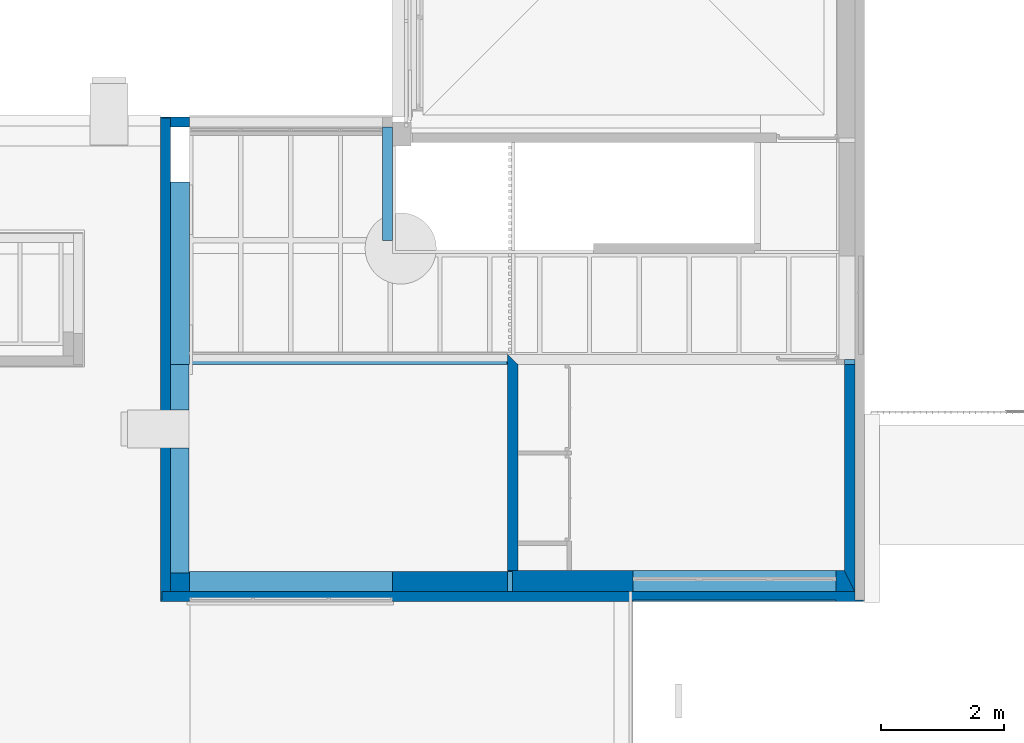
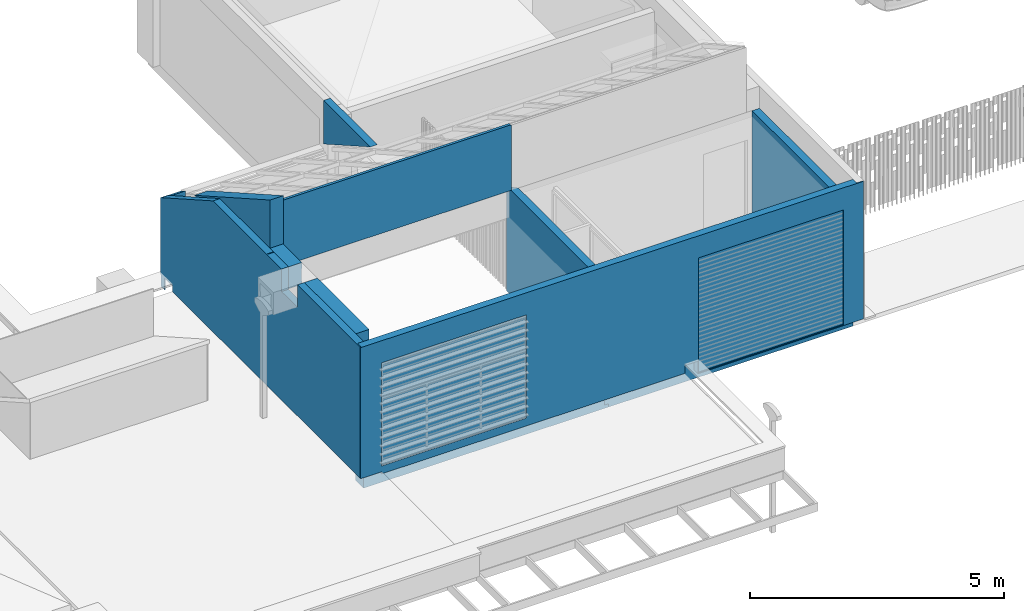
# One storey, part 24 of 51: 11 walls.
"""IFC2X3 building model written with IfcOpenShell, lengths in metres."""

from ifc_helpers import new_model, entity, si_unit, converted_unit, derived_unit, direction, frame, origin, place, context, subcontext, project, spatial, faceted_brep, material, layer, layer_set, type_object, element, save


model = new_model("IFC2X3")

# Units and contexts
model_context = context("Model", 3, precision=1e-05, world=origin(), true_north=direction((6.123031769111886e-17, 1.0)))
body_context = subcontext(model_context, "Body", "Model", "MODEL_VIEW")
ifc_project = project(units=[si_unit("LENGTHUNIT", "METRE"), si_unit("AREAUNIT", "SQUARE_METRE"), si_unit("VOLUMEUNIT", "CUBIC_METRE"), converted_unit("PLANEANGLEUNIT", "DEGREE", entity("IfcRatioMeasure", 0.017453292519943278), si_unit("PLANEANGLEUNIT", "RADIAN"), dimensions=[0, 0, 0, 0, 0, 0, 0]), si_unit("MASSUNIT", "GRAM", prefix="KILO"), derived_unit("MASSDENSITYUNIT", [(si_unit("MASSUNIT", "GRAM", prefix="KILO"), 1), (si_unit("LENGTHUNIT", "METRE"), -3)]), derived_unit("MOMENTOFINERTIAUNIT", [(si_unit("LENGTHUNIT", "METRE"), 4)]), si_unit("TIMEUNIT", "SECOND"), si_unit("FREQUENCYUNIT", "HERTZ"), si_unit("THERMODYNAMICTEMPERATUREUNIT", "DEGREE_CELSIUS"), derived_unit("THERMALTRANSMITTANCEUNIT", [(si_unit("MASSUNIT", "GRAM", prefix="KILO"), 1), (si_unit("THERMODYNAMICTEMPERATUREUNIT", "KELVIN"), -1), (si_unit("TIMEUNIT", "SECOND"), -3)]), derived_unit("THERMALCONDUCTANCEUNIT", [(si_unit("MASSUNIT", "GRAM", prefix="KILO"), 1), (si_unit("LENGTHUNIT", "METRE"), 1), (si_unit("THERMODYNAMICTEMPERATUREUNIT", "KELVIN"), -1), (si_unit("TIMEUNIT", "SECOND"), -3)]), derived_unit("VOLUMETRICFLOWRATEUNIT", [(si_unit("LENGTHUNIT", "METRE"), 3), (si_unit("TIMEUNIT", "SECOND"), -1)]), derived_unit("MASSFLOWRATEUNIT", [(si_unit("MASSUNIT", "GRAM", prefix="KILO"), 1), (si_unit("TIMEUNIT", "SECOND"), -1)]), derived_unit("ROTATIONALFREQUENCYUNIT", [(si_unit("TIMEUNIT", "SECOND"), -1)]), si_unit("ELECTRICCURRENTUNIT", "AMPERE"), si_unit("ELECTRICVOLTAGEUNIT", "VOLT"), si_unit("POWERUNIT", "WATT"), si_unit("FORCEUNIT", "NEWTON", prefix="KILO"), si_unit("ILLUMINANCEUNIT", "LUX"), si_unit("LUMINOUSFLUXUNIT", "LUMEN"), si_unit("LUMINOUSINTENSITYUNIT", "CANDELA"), derived_unit("USERDEFINED", [(si_unit("MASSUNIT", "GRAM", prefix="KILO"), -1), (si_unit("LENGTHUNIT", "METRE"), -2), (si_unit("TIMEUNIT", "SECOND"), 3), (si_unit("LUMINOUSFLUXUNIT", "LUMEN"), 1)]), derived_unit("USERDEFINED", [(si_unit("MASSUNIT", "GRAM", prefix="KILO"), 1), (si_unit("LENGTHUNIT", "METRE"), 3), (si_unit("TIMEUNIT", "SECOND"), -3), (si_unit("ELECTRICCURRENTUNIT", "AMPERE"), -2)]), derived_unit("USERDEFINED", [(si_unit("LENGTHUNIT", "METRE"), 2), (si_unit("TIMEUNIT", "SECOND"), -2)]), derived_unit("SOUNDPOWERUNIT", [(si_unit("MASSUNIT", "GRAM", prefix="KILO"), 1), (si_unit("LENGTHUNIT", "METRE"), 2), (si_unit("TIMEUNIT", "SECOND"), -3)]), derived_unit("SOUNDPRESSUREUNIT", [(si_unit("MASSUNIT", "GRAM", prefix="KILO"), 1), (si_unit("LENGTHUNIT", "METRE"), -1), (si_unit("TIMEUNIT", "SECOND"), -2)]), derived_unit("LINEARVELOCITYUNIT", [(si_unit("LENGTHUNIT", "METRE"), 1), (si_unit("TIMEUNIT", "SECOND"), -1)]), si_unit("PRESSUREUNIT", "PASCAL"), derived_unit("USERDEFINED", [(si_unit("LENGTHUNIT", "METRE"), -2), (si_unit("MASSUNIT", "GRAM", prefix="KILO"), 1), (si_unit("TIMEUNIT", "SECOND"), -2)]), derived_unit("LINEARFORCEUNIT", [(si_unit("MASSUNIT", "GRAM", prefix="KILO"), 1), (si_unit("LENGTHUNIT", "METRE"), 1), (si_unit("TIMEUNIT", "SECOND"), -2), (si_unit("LENGTHUNIT", "METRE"), -1)]), derived_unit("PLANARFORCEUNIT", [(si_unit("MASSUNIT", "GRAM", prefix="KILO"), 1), (si_unit("LENGTHUNIT", "METRE"), 1), (si_unit("TIMEUNIT", "SECOND"), -2), (si_unit("LENGTHUNIT", "METRE"), -2)]), derived_unit("SPECIFICHEATCAPACITYUNIT", [(si_unit("LENGTHUNIT", "METRE"), 2), (si_unit("TIMEUNIT", "SECOND"), -2), (si_unit("THERMODYNAMICTEMPERATUREUNIT", "KELVIN"), -1)]), derived_unit("VAPORPERMEABILITYUNIT", [(si_unit("TIMEUNIT", "SECOND"), 1), (si_unit("LENGTHUNIT", "METRE"), -1)]), derived_unit("DYNAMICVISCOSITYUNIT", [(si_unit("MASSUNIT", "GRAM", prefix="KILO"), 1), (si_unit("LENGTHUNIT", "METRE"), -1), (si_unit("TIMEUNIT", "SECOND"), -1)]), derived_unit("THERMALEXPANSIONCOEFFICIENTUNIT", [(si_unit("THERMODYNAMICTEMPERATUREUNIT", "KELVIN"), -1)])], contexts=[model_context])

# Site, building, storey
site_placement = place(None, origin())
site = spatial("IfcSite", under=ifc_project, at=site_placement, Name="Default", CompositionType="ELEMENT")
building_placement = place(site_placement, origin())
building = spatial("IfcBuilding", under=site, at=building_placement, CompositionType="ELEMENT")
storey_placement = place(building_placement, frame((0.0, 0.0, 3.06)))
storey = spatial("IfcBuildingStorey", under=building, at=storey_placement, Name="ÉTAGE", CompositionType="ELEMENT", Elevation=3.06)

# Walls
wall_type_1 = type_object("IfcWallType", Name="MurExt-007", PredefinedType="NOTDEFINED")
wall_1_placement = place(storey_placement, frame((116.91075228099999, 15.307209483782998, 0.0)))
element("IfcWall", 1, at=wall_1_placement, inside=storey, type_object=wall_type_1, Name="MurExt-007:MurExt-007", ObjectType="MurExt-007:MurExt-007", context=body_context, shape_type="Brep", body=[
    faceted_brep([(0.4699999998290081, 0.14000000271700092, 0.2799999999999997), (0.4699999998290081, 0.14000000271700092, 2.1304379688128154), (0.15999999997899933, 0.14000000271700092, 2.1304379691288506), (0.019999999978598, 0.14000000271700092, 2.1304379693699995), (0.019999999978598, 0.14000000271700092, 0.2799999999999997), (0.4699999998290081, 0.1600000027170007, 0.2799999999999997), (0.4699999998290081, 0.1600000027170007, 2.1190719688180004), (0.019999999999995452, 0.1600000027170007, 0.2799999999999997), (0.019999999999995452, 0.1600000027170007, 2.1190719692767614), (0.019999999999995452, 0.16000000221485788, 2.1190719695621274), (0.02000000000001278, 0.16000000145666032, 0.2799999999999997), (0.019999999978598, 0.1400000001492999, 0.2799999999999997)], [[[0, 1, 2, 3, 4]], [[1, 0, 5, 6]], [[6, 5, 7, 8]], [[9, 3, 2, 1, 6]], [[3, 8, 10, 4]], [[11, 7, 5, 0]]]),
    faceted_brep([(0.4699999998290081, 2.7170002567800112e-09, 0.2799999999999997), (0.4699999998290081, 2.7170002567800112e-09, 2.2099999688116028), (0.15999999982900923, 2.7170002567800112e-09, 2.209999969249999), (0.15999999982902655, 2.7170002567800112e-09, 0.2799999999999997), (0.4699999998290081, 0.14000000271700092, 0.2799999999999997), (0.4699999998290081, 0.14000000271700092, 2.1304379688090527), (0.15999999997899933, 0.14000000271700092, 0.2799999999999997), (0.15999999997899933, 0.14000000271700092, 2.1304379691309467), (0.15999999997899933, 0.14000000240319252, 2.1304379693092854), (0.15999999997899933, 0.13999999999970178, 0.2799999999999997), (0.15999999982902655, 0.0, 0.2799999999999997)], [[[0, 1, 2, 3]], [[1, 0, 4, 5]], [[5, 4, 6, 7]], [[8, 2, 1, 5]], [[2, 7, 9, 3]], [[10, 6, 4, 0]]]),
])
wall_type_2 = type_object("IfcWallType", Name="MurExt-006", PredefinedType="NOTDEFINED")
wall_2_placement = place(storey_placement, frame((116.91075228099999, 7.5872094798, 0.0), z_axis=(0.0, 0.0, 1.0), x_axis=(0.0, 1.0, 0.0)))
element("IfcWall", 2, at=wall_2_placement, inside=storey, type_object=wall_type_2, Name="MurExt-006 294160:MurExt-006 294160", ObjectType="MurExt-006 294160:MurExt-006 294160", context=body_context, shape_type="Brep", body=[
    faceted_brep([(2.495000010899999, -0.019999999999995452, 3.29), (2.495000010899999, 0.0, 3.29), (0.019999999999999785, 0.0, 3.29), (0.019999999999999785, -0.019999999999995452, 3.29), (7.720000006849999, -0.019999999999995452, 0.0), (7.720000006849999, 0.0, 0.0), (7.860000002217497, 0.0, 0.0), (7.860000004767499, -0.019999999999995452, 0.0), (3.115000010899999, -0.019999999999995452, 2.75), (2.495000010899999, -0.019999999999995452, 2.75), (0.019999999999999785, -0.019999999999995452, 0.14000000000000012), (7.420000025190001, -0.019999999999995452, 0.13999999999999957), (7.4200000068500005, -0.019999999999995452, 0.2799999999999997), (7.720000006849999, -0.019999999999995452, 0.2799999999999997), (7.860000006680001, -0.019999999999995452, 0.2799999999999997), (7.880000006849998, -0.019999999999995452, 0.2799999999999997), (7.880000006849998, -0.019999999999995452, 2.1190719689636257), (7.8600000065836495, -0.019999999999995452, 2.130437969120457), (5.819595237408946, -0.019999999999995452, 3.29), (3.115000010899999, -0.019999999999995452, 3.29), (7.880000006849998, 0.0, 0.2799999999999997), (7.880000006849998, 0.0, 2.119071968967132), (2.495000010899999, 0.0, 2.75), (3.115000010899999, 0.0, 2.75), (3.115000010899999, 0.0, 3.29), (5.819595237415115, 0.0, 3.290000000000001), (7.860000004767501, 0.0, 0.28000000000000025), (7.720000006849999, 0.0, 0.2799999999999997), (7.4200000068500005, 0.0, 0.2799999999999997), (7.420000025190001, 0.0, 0.14000000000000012), (0.019999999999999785, 0.0, 0.14000000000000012), (7.860000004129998, 0.0, 0.2799999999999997), (7.860000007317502, -0.019999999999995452, 0.28000000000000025)], [[[0, 1, 2, 3]], [[4, 5, 6, 7]], [[8, 9, 0, 3, 10, 11, 12, 13, 4, 7, 14, 15, 16, 17, 18, 19]], [[15, 20, 21, 16]], [[22, 23, 24, 25, 21, 20, 26, 6, 5, 27, 28, 29, 30, 2, 1]], [[22, 9, 8, 23]], [[23, 8, 19, 24]], [[9, 22, 1, 0]], [[30, 10, 3, 2]], [[13, 27, 5, 4]], [[27, 13, 12, 28]], [[28, 12, 11, 29]], [[10, 30, 29, 11]], [[14, 31, 20, 15]], [[31, 32, 7, 6]], [[25, 18, 17, 16, 21]], [[24, 19, 18, 25]]]),
    faceted_brep([(2.495000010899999, -0.15999999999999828, 3.29), (2.495000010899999, -0.019999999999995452, 3.29), (0.15999998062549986, -0.019999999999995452, 3.29), (0.15999998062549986, -0.15999999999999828, 3.29), (3.115000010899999, -0.15999999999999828, 2.75), (2.495000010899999, -0.15999999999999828, 2.75), (0.16000005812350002, -0.15999999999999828, 0.14000000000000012), (7.420000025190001, -0.15999999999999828, 0.13999999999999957), (7.4200000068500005, -0.15999999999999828, 0.2799999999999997), (7.860000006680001, -0.15999999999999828, 0.2799999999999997), (7.860000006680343, -0.15999999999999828, 2.1304379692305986), (5.8195952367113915, -0.15999999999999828, 3.29), (3.71000001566, -0.15999999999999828, 3.29), (3.71000001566, -0.15999999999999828, 2.9899999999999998), (3.690000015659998, -0.15999999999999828, 2.9899999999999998), (3.690000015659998, -0.15999999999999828, 3.29), (3.115000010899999, -0.15999999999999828, 3.29), (2.495000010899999, -0.019999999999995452, 2.75), (3.115000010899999, -0.019999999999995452, 2.75), (3.115000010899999, -0.019999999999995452, 3.29), (3.690000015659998, -0.019999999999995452, 3.29), (3.690000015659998, -0.019999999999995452, 2.9899999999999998), (3.71000001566, -0.019999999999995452, 2.9899999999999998), (3.71000001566, -0.019999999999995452, 3.29), (5.819595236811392, -0.019999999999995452, 3.2899999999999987), (7.860000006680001, -0.019999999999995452, 2.1304379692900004), (7.860000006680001, -0.019999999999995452, 0.2799999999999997), (7.4200000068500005, -0.019999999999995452, 0.2799999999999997), (7.420000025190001, -0.019999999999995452, 0.14000000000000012), (0.16000005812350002, -0.019999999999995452, 0.1400000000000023), (0.16000000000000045, -0.019999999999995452, 0.14000000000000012)], [[[0, 1, 2, 3]], [[4, 5, 0, 3, 6, 7, 8, 9, 10, 11, 12, 13, 14, 15, 16]], [[17, 18, 19, 20, 21, 22, 23, 24, 25, 26, 27, 28, 29, 2, 1]], [[17, 5, 4, 18]], [[18, 4, 16, 19]], [[5, 17, 1, 0]], [[21, 14, 13, 22]], [[22, 13, 12, 23]], [[14, 21, 20, 15]], [[29, 6, 3, 2]], [[10, 25, 24, 11]], [[25, 10, 9, 26]], [[26, 9, 8, 27]], [[27, 8, 7, 28]], [[6, 30, 28, 7]], [[19, 16, 15, 20]], [[23, 12, 11, 24]]]),
])
wall_type_3 = type_object("IfcWallType", Name="MurExt-005", PredefinedType="NOTDEFINED")
wall_3_placement = place(storey_placement, frame((116.91075228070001, 7.5872094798, -0.020000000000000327)))
element("IfcWall", 3, at=wall_3_placement, inside=storey, type_object=wall_type_3, Name="MurExt-005 295181:MurExt-005 295181", ObjectType="MurExt-005 295181:MurExt-005 295181", context=body_context, shape_type="Brep", body=[
    faceted_brep([(0.0, 0.019999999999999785, 3.309999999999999), (0.0, 0.0, 3.309999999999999), (11.429999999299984, 0.0, 3.309999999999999), (11.429999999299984, 0.019999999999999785, 3.309999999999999), (7.669999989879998, 0.0, 0.0), (7.669999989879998, 0.019999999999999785, 0.0), (11.429999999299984, 0.019999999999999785, 0.0), (11.429999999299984, 0.0, 0.0), (0.0, 0.019999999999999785, 0.16000000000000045), (7.669999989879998, 0.019999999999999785, 0.30000000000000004), (7.369999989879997, 0.019999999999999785, 0.30000000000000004), (7.369999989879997, 0.019999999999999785, 0.1099999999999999), (0.4800000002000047, 0.019999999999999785, 0.1099999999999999), (0.4800000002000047, 0.019999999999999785, 0.16000000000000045), (10.979999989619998, 0.019999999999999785, 0.020000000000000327), (10.979999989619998, 0.019999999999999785, 2.7800000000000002), (7.679999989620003, 0.019999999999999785, 2.7800000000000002), (7.679999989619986, 0.019999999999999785, 0.020000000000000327), (3.769999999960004, 0.019999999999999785, 0.30000000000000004), (3.769999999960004, 0.019999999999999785, 2.7800000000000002), (0.469999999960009, 0.019999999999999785, 2.7800000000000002), (0.469999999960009, 0.019999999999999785, 0.30000000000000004), (0.0, 0.0, 0.16000000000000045), (0.4800000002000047, 0.0, 0.16000000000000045), (0.4800000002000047, 0.0, 0.1099999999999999), (7.369999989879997, 0.0, 0.1099999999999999), (7.369999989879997, 0.0, 0.30000000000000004), (7.669999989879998, 0.0, 0.30000000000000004), (10.979999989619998, 0.0, 2.7800000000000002), (10.979999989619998, 0.0, 0.020000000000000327), (7.679999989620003, 0.0, 0.020000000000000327), (7.679999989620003, 0.0, 2.7800000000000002), (3.769999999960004, 0.0, 2.7800000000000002), (3.769999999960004, 0.0, 0.30000000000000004), (0.469999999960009, 0.0, 0.30000000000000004), (0.469999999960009, 0.0, 2.7800000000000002)], [[[0, 1, 2, 3]], [[4, 5, 6, 7]], [[8, 0, 3, 6, 5, 9, 10, 11, 12, 13], [14, 15, 16, 17], [18, 19, 20, 21]], [[1, 0, 8, 22]], [[1, 22, 23, 24, 25, 26, 27, 4, 7, 2], [28, 29, 30, 31], [32, 33, 34, 35]], [[10, 26, 25, 11]], [[26, 10, 9, 27]], [[27, 9, 5, 4]], [[13, 23, 22, 8]], [[23, 13, 12, 24]], [[11, 25, 24, 12]], [[3, 2, 7, 6]], [[14, 29, 28, 15]], [[18, 33, 32, 19]], [[19, 32, 35, 20]], [[15, 28, 31, 16]], [[20, 35, 34, 21]], [[16, 31, 30, 17]], [[29, 14, 17, 30]], [[33, 18, 21, 34]]]),
    faceted_brep([(0.02000000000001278, 0.16000000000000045, 3.309999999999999), (0.02000000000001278, 0.019999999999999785, 3.309999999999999), (11.289999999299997, 0.019999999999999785, 3.309999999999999), (11.289999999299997, 0.16000000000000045, 3.309999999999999), (7.669999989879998, 0.019999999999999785, 0.0), (7.669999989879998, 0.16000000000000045, 0.0), (11.289999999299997, 0.16000000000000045, 0.0), (11.289999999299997, 0.019999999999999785, 0.0), (7.369999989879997, 0.16000000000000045, 0.30000000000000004), (7.369999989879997, 0.16000000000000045, 0.1099999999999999), (0.4800000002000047, 0.16000000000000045, 0.1099999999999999), (0.4800000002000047, 0.16000000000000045, 0.16000000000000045), (0.02000000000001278, 0.16000000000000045, 0.16000000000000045), (7.669999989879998, 0.16000000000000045, 0.30000000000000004), (7.369999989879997, 0.019999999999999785, 0.1099999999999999), (7.369999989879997, 0.019999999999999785, 0.30000000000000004), (7.669999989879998, 0.019999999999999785, 0.30000000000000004), (0.02000000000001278, 0.019999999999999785, 0.16000000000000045), (0.4800000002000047, 0.019999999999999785, 0.16000000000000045), (0.4800000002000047, 0.019999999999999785, 0.1099999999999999), (0.4800000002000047, 0.1600000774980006, 0.16000000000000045), (0.4800000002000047, 0.1600000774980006, 0.1099999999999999), (7.369999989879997, 0.1600000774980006, 0.1099999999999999)], [[[0, 1, 2, 3]], [[4, 5, 6, 7]], [[8, 9, 10, 11, 12, 0, 3, 6, 5, 13]], [[14, 15, 16, 4, 7, 2, 1, 17, 18, 19]], [[14, 9, 8, 15]], [[15, 8, 13, 16]], [[16, 13, 5, 4]], [[12, 17, 1, 0]], [[17, 12, 20, 18]], [[18, 11, 21, 19]], [[22, 14, 19, 10]], [[3, 2, 7, 6]]]),
])
wall_type_4 = type_object("IfcWallType", Name="MurExt-020", PredefinedType="NOTDEFINED")
wall_4_placement = place(storey_placement, frame((117.07075228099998, 11.437209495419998, 2.759999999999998), z_axis=(0.0, 0.0, 1.0), x_axis=(0.0, 1.0, 0.0)))
element("IfcWall", 4, at=wall_4_placement, inside=storey, type_object=wall_type_4, Name="MurExt-020 805178:MurExt-020 805178", ObjectType="MurExt-020 805178:MurExt-020 805178", context=body_context, shape_type="Brep", body=[
    faceted_brep([(0.0, -0.31000000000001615, 0.0), (0.0, 0.0, 0.0), (2.9725865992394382, 0.0, 0.0), (2.972586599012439, -0.31000000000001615, 0.0), (0.0, 0.0, 1.6893209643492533), (0.0, -0.31000000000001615, 1.6893209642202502)], [[[0, 1, 2, 3]], [[2, 1, 4]], [[1, 0, 5, 4]], [[0, 3, 5]], [[3, 2, 4, 5]]]),
])
wall_type_5 = type_object("IfcWallType", Name="MurExt-020", PredefinedType="NOTDEFINED")
wall_5_placement = place(storey_placement, frame((117.07075228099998, 7.7472094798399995, 2.759999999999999), z_axis=(0.0, 0.0, 1.0), x_axis=(0.0, 1.0, 0.0)))
element("IfcWall", 5, at=wall_5_placement, inside=storey, type_object=wall_type_5, Name="MurExt-020 805722:MurExt-020 805722", ObjectType="MurExt-020 805722:MurExt-020 805722", context=body_context, shape_type="Brep", body=[
    faceted_brep([(3.6900000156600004, -0.3000000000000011, 0.5299999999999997), (3.6900000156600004, 0.0, 0.5299999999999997), (2.955000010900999, 0.0, 0.5299999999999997), (2.955000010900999, -0.3000000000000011, 0.5299999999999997), (3.6900000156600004, 0.0, 0.0), (2.955000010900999, 0.0, 0.0), (3.6900000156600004, -0.3000000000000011, 0.3800000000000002), (3.6900000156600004, -0.2899999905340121, 0.3800000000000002), (3.6900000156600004, -0.2899999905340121, 0.08000000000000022), (3.6900000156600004, -0.3000000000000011, 0.08000000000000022), (3.6900000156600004, -0.3000000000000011, 0.0), (2.955000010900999, -0.2899999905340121, 0.08000000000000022), (3.689999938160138, -0.2899999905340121, 0.3800000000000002), (2.955000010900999, -0.2899999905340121, 0.3800000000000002), (2.955000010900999, -0.3000000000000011, 0.3800000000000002), (3.689999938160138, -0.2899999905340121, 0.08000000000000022), (2.955000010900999, -0.3000000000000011, 0.08000000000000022), (2.955000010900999, -0.3000000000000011, 0.0)], [[[0, 1, 2, 3]], [[1, 4, 5, 2]], [[1, 0, 6, 7, 8, 9, 10, 4]], [[11, 8, 12, 13]], [[13, 7, 6, 14]], [[15, 11, 16, 9]], [[11, 13, 14, 3, 2, 5, 17, 16]], [[0, 3, 14, 6]], [[17, 10, 9, 16]], [[4, 10, 17, 5]]]),
    faceted_brep([(2.3350000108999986, -0.3000000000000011, 0.0), (0.29999999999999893, -0.3000000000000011, 0.0), (0.29999999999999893, 0.0, 0.0), (2.3350000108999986, 0.0, 0.0), (2.3350000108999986, -0.3000000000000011, 0.5299999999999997), (0.29999999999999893, -0.3000000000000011, 0.5299999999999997), (0.30000000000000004, -0.3000000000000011, 0.3800000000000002), (2.3350000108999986, -0.3000000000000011, 0.3800000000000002), (2.3350000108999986, -0.2899999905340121, 0.08000000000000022), (2.3350000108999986, -0.3000000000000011, 0.08000000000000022), (2.3350000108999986, 0.0, 0.5299999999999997), (2.3350000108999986, -0.2899999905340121, 0.3800000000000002), (0.30000000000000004, -0.2899999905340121, 0.3800000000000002), (0.29999999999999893, 0.0, 0.5299999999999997), (0.29999999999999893, -0.3000000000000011, 0.08000000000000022), (0.29999999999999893, -0.2899999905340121, 0.08000000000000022)], [[[0, 1, 2, 3]], [[4, 5, 6, 7]], [[8, 9, 0, 3, 10, 4, 7, 11]], [[11, 7, 6, 12]], [[12, 6, 5, 13, 2, 1, 14, 15]], [[9, 8, 15, 14]], [[8, 11, 12, 15]], [[1, 0, 9, 14]], [[13, 10, 3, 2]], [[10, 13, 5, 4]]]),
])
wall_type_6 = type_object("IfcWallType", Name="MurExt-018", PredefinedType="NOTDEFINED")
wall_6_placement = place(storey_placement, frame((117.07075228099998, 11.437209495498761, 2.759999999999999)))
element("IfcWall", 6, at=wall_6_placement, inside=storey, type_object=wall_type_6, Name="MurExt-018 806392:MurExt-018 806392", ObjectType="MurExt-018 806392:MurExt-018 806392", context=body_context, shape_type="Brep", body=[
    faceted_brep([(0.31000000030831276, 0.0, 1.5800000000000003), (5.469999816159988, 0.0, 1.5800000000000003), (5.469999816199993, 0.05999992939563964, 1.5800000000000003), (0.30999999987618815, 0.05999992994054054, 1.5800000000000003), (5.489999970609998, 0.17000000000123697, 0.0), (5.489999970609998, 0.0, 0.0), (0.31000000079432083, 0.0, 0.0), (0.30999999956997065, 0.17000000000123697, 0.0), (0.31000000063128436, 0.0, 0.5299999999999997), (5.489999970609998, 0.0, 1.5693209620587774), (5.469999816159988, 0.0, 1.5693209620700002), (5.489999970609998, 0.17000000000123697, 1.472709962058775), (0.30999999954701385, 0.17000000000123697, 1.4727099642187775), (5.469999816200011, 0.059999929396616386, 1.5352230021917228), (0.31000000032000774, 0.05999992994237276, 1.5352230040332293), (0.31000000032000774, 0.05999992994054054, 1.5800000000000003), (0.30999999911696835, 0.17000000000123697, 1.4727099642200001)], [[[0, 1, 2, 3]], [[4, 5, 6, 7]], [[1, 0, 8, 6, 5, 9, 10]], [[5, 4, 11, 9]], [[4, 7, 12, 11]], [[13, 10, 9, 11, 12, 14]], [[10, 13, 2, 1]], [[13, 14, 15, 2]], [[14, 16, 7, 6, 8, 0, 15]]]),
])
wall_type_7 = type_object("IfcWallType", Name="MurExt-003", PredefinedType="NOTDEFINED")
wall_7_placement = place(storey_placement, frame((120.52075226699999, 13.247209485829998, 2.119999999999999), z_axis=(0.0, 0.0, 1.0), x_axis=(0.0, 1.0, 0.0)))
element("IfcWall", 7, at=wall_7_placement, inside=storey, type_object=wall_type_7, Name="MurExt-003 838750:MurExt-003 838750", ObjectType="MurExt-003 838750:MurExt-003 838750", context=body_context, shape_type="Brep", body=[
    faceted_brep([(2.0599999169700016, -0.019999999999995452, 1.1699999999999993), (2.0599999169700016, 0.0, 1.1699999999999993), (0.21238420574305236, 0.0, 1.1699999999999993), (0.2123842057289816, -0.019999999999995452, 1.1699999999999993), (2.0599999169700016, 0.0, 0.11999999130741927), (2.0599999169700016, -0.019999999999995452, 0.11999999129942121)], [[[0, 1, 2, 3]], [[2, 1, 4]], [[0, 3, 5]], [[1, 0, 5, 4]], [[3, 2, 4, 5]]]),
    faceted_brep([(2.0599999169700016, -0.15999999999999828, 1.1699999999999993), (2.0599999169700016, -0.019999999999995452, 1.1699999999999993), (0.2123842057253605, -0.019999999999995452, 1.1699999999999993), (0.21238420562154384, -0.15999999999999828, 1.1699999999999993), (2.0599999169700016, -0.019999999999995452, 0.11999999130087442), (2.0599999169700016, -0.15999999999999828, 0.11999999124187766)], [[[0, 1, 2, 3]], [[2, 1, 4]], [[0, 3, 5]], [[1, 0, 5, 4]], [[3, 2, 4, 5]]]),
])
ifc_material = material(Name="Appareillage - Pierre taillé")
ifc_layer_1 = layer(ifc_material, 0.32999999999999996)
ifc_layer_set_1 = layer_set([ifc_layer_1], Name="Mur de base:Struct. - Pierre 330")
wall_type_8 = type_object("IfcWallType", Name="Mur de base:Struct. - Pierre 330", PredefinedType="STANDARD", material=ifc_layer_set_1)
wall_8_placement = place(storey_placement, frame((122.63575227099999, 7.9122094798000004, -0.24000000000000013), z_axis=(0.0, 0.0, 1.0), x_axis=(-1.0, 0.0, 0.0)))
element("IfcWallStandardCase", 8, at=wall_8_placement, inside=storey, type_object=wall_type_8, Name="MurExt-003", ObjectType="Mur de base:Struct. - Pierre 330", context=body_context, shape_type="Brep", body=[
    faceted_brep([(0.0, -0.16499999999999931, 0.0), (5.5649999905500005, -0.16499999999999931, 0.0), (5.5649999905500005, -0.16499999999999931, 3.0), (5.254999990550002, -0.16499999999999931, 3.0), (5.254999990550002, -0.16499999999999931, 0.5199999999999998), (1.9549999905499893, -0.16499999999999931, 0.5199999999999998), (1.9549999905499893, -0.16499999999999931, 3.0), (0.08499999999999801, -0.16499999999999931, 3.0), (0.08499999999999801, -0.16499999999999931, 0.07999999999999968), (0.0, -0.16499999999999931, 0.07999999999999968), (5.5649999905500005, 0.1650000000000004, 0.0), (0.0, 0.1650000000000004, 0.0), (0.0, 0.1650000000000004, 0.07999999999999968), (0.08499999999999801, 0.1650000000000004, 0.07999999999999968), (0.08499999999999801, 0.1650000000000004, 3.0), (1.9549999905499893, 0.1650000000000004, 3.0), (1.9549999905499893, 0.1650000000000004, 0.5199999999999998), (5.254999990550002, 0.1650000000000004, 0.5199999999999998), (5.254999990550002, 0.1650000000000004, 3.0), (5.5649999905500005, 0.1650000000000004, 3.0), (5.254999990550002, 0.0033000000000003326, 3.0), (1.9549999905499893, 0.0033000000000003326, 0.5199999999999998), (1.9549999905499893, 0.0033000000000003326, 3.0), (5.254999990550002, 0.0033000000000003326, 0.5199999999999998)], [[[0, 1, 2, 3, 4, 5, 6, 7, 8, 9]], [[10, 11, 12, 13, 14, 15, 16, 17, 18, 19]], [[1, 0, 11, 10]], [[2, 1, 10, 19]], [[2, 19, 18, 20, 3]], [[5, 21, 16, 15, 22, 6]], [[23, 4, 3, 20, 18, 17]], [[21, 5, 4, 23, 17, 16]], [[11, 0, 9, 12]], [[13, 12, 9, 8]], [[8, 7, 14, 13]], [[14, 7, 6, 22, 15]]]),
])
ifc_layer_2 = layer(ifc_material, 0.17)
ifc_layer_set_2 = layer_set([ifc_layer_2], Name="Mur de base:Struct. - Pierre 170")
wall_type_9 = type_object("IfcWallType", Name="Mur de base:Struct. - Pierre 170", PredefinedType="STANDARD", material=ifc_layer_set_2)
wall_9_placement = place(storey_placement, frame((128.11575227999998, 11.522209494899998, -0.24000000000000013), z_axis=(0.0, 0.0, 1.0), x_axis=(0.0, -1.0, 0.0)))
element("IfcWallStandardCase", 9, at=wall_9_placement, inside=storey, type_object=wall_type_9, Name="MurExt-002", ObjectType="Mur de base:Struct. - Pierre 170", context=body_context, shape_type="Brep", body=[
    faceted_brep([(0.0, -0.08499999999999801, 0.0), (3.4350000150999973, -0.08499999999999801, 0.0), (3.4350000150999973, -0.08499999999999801, 3.0), (0.08500000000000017, -0.08499999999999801, 3.0), (0.08500000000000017, -0.08499999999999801, 0.24000000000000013), (0.0, -0.08499999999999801, 0.24000000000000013), (0.0, 0.08499999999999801, 0.0), (0.0, 0.08499999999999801, 0.24000000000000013), (0.08500000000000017, 0.08499999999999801, 0.24000000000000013), (0.08500000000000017, 0.08499999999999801, 3.0), (3.775000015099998, 0.08499999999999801, 3.0), (3.775000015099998, 0.08499999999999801, 0.0)], [[[0, 1, 2, 3, 4, 5]], [[6, 7, 8, 9, 10, 11]], [[1, 0, 6, 11]], [[3, 2, 10, 9]], [[0, 5, 7, 6]], [[4, 8, 7, 5]], [[4, 3, 9, 8]], [[2, 1, 11, 10]]]),
])
wall_10_placement = place(storey_placement, frame((122.63575227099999, 8.0872094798, -0.16000000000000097), z_axis=(0.0, 0.0, 1.0), x_axis=(0.0, 1.0, 0.0)))
element("IfcWallStandardCase", 10, at=wall_10_placement, inside=storey, type_object=wall_type_9, Name="MurExt-002", ObjectType="Mur de base:Struct. - Pierre 170", context=body_context, shape_type="Brep", body=[
    faceted_brep([(0.0, -0.08499999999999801, 0.0), (3.3600000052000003, -0.08499999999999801, 0.0), (3.3600000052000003, -0.08499999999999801, 0.16000000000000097), (3.3500000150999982, -0.08499999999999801, 0.16000000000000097), (3.3500000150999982, -0.08499999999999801, 0.4000000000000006), (3.3500000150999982, -0.08499999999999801, 2.9200000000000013), (0.0, -0.08499999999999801, 2.9200000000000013), (0.0, 0.08499999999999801, 0.0), (0.0, 0.08499999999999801, 2.9200000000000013), (3.5200000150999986, 0.08499999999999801, 2.9200000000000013), (3.5200000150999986, 0.08499999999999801, 0.4000000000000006), (3.3500000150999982, 0.08499999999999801, 0.4000000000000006), (3.3500000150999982, 0.08499999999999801, 0.16000000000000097), (3.3600000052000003, 0.08499999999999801, 0.16000000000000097), (3.3600000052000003, 0.08499999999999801, 0.0), (0.0, 0.0, 0.0), (3.3500000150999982, 0.07499999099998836, 0.16000000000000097), (3.3600000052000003, 0.07499999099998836, 0.16000000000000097), (3.437741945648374, 0.002741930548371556, 0.4000000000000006), (3.3500000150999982, 0.07499999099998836, 0.4000000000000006)], [[[0, 1, 2, 3, 4, 5, 6]], [[7, 8, 9, 10, 11, 12, 13, 14]], [[1, 0, 15, 7, 14]], [[6, 5, 9, 8]], [[12, 16, 3, 2, 17, 13]], [[10, 18, 4, 19, 11]], [[2, 1, 14, 13, 17]], [[4, 3, 16, 12, 11, 19]], [[5, 4, 18, 10, 9]], [[0, 6, 8, 7, 15]]]),
])
ifc_layer_3 = layer(ifc_material, 0.34)
ifc_layer_set_3 = layer_set([ifc_layer_3], Name="Mur de base:Struct. - Pierre 340")
wall_type_10 = type_object("IfcWallType", Name="Mur de base:Struct. - Pierre 340", PredefinedType="STANDARD", material=ifc_layer_set_3)
wall_11_placement = place(storey_placement, frame((128.20075228, 7.9172094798, -0.24000000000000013), z_axis=(0.0, 0.0, 1.0), x_axis=(-1.0, 0.0, 0.0)))
element("IfcWallStandardCase", 11, at=wall_11_placement, inside=storey, type_object=wall_type_10, Name="MurExt-003", ObjectType="Mur de base:Struct. - Pierre 340", context=body_context, shape_type="Brep", body=[
    faceted_brep([(0.16999999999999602, -0.16999999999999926, 0.0), (5.565000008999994, -0.16999999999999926, 0.0), (5.565000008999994, -0.16999999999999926, 0.07999999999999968), (5.650000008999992, -0.16999999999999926, 0.07999999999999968), (5.650000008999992, -0.16999999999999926, 3.0), (5.480000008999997, -0.16999999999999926, 3.0), (3.6100000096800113, -0.16999999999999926, 3.0), (3.6100000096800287, -0.16999999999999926, 0.24000000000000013), (0.3100000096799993, -0.16999999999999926, 0.24000000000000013), (0.3100000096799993, -0.16999999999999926, 3.0), (0.16999999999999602, -0.16999999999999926, 3.0), (5.565000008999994, 0.17000000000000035, 0.0), (0.0, 0.17000000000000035, 0.0), (0.0, 0.17000000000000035, 3.0), (0.3100000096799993, 0.17000000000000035, 3.0), (0.3100000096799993, 0.17000000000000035, 0.24000000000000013), (3.6100000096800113, 0.17000000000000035, 0.24000000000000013), (3.6100000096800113, 0.17000000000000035, 3.0), (5.650000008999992, 0.17000000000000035, 3.0), (5.650000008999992, 0.17000000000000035, 0.07999999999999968), (5.565000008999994, 0.17000000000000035, 0.07999999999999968), (5.565000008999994, -0.15999999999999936, 0.0), (5.650000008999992, -0.15999999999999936, 3.0), (3.6100000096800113, -0.00340000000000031, 3.0), (3.6100000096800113, -0.00340000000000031, 0.24000000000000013), (0.3100000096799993, -0.00340000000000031, 0.24000000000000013), (0.3100000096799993, -0.00340000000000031, 3.0), (5.565000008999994, -0.15999999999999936, 0.07999999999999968), (5.650000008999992, -0.15999999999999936, 0.07999999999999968)], [[[0, 1, 2, 3, 4, 5, 6, 7, 8, 9, 10]], [[11, 12, 13, 14, 15, 16, 17, 18, 19, 20]], [[1, 0, 12, 11, 21]], [[4, 22, 18, 17, 23, 6, 5]], [[16, 24, 7, 6, 23, 17]], [[25, 15, 14, 26, 9, 8]], [[24, 16, 15, 25, 8, 7]], [[0, 10, 13, 12]], [[1, 21, 11, 20, 27, 2]], [[3, 2, 27, 20, 19, 28]], [[4, 3, 28, 19, 18, 22]], [[13, 10, 9, 26, 14]]]),
])

save(model, "model.ifc")
